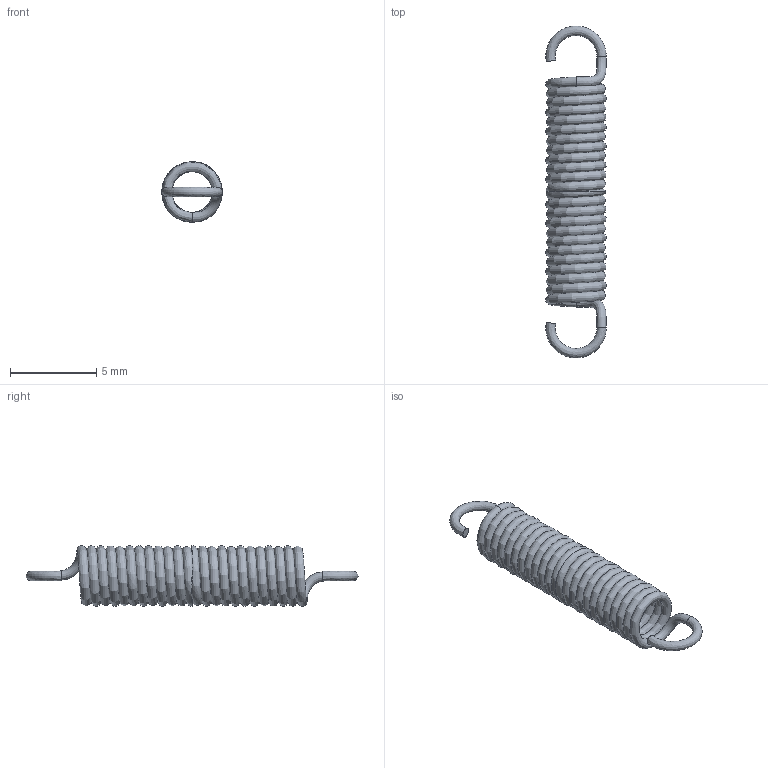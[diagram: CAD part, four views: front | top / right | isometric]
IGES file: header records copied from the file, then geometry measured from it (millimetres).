
Global section: file name: T10280; native system: Autodesk Inventor 2026; preprocessor: unknown; author: J. Iwanek; date: 20261005.094732; units: millimetre
Bounding box: 3.5 x 19.2 x 3.5 mm (x, y, z)
Volume: 54.9 mm3; surface area: 400.3 mm2
Topology: 1 solids, 1 shells, 10 faces, 36 edges, 24 vertices
Faces by surface type: bspline 10
